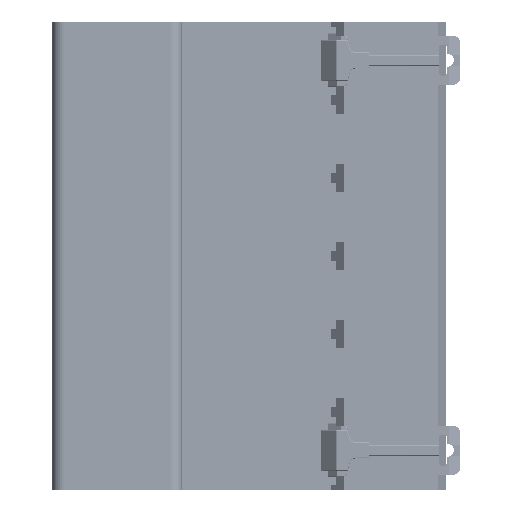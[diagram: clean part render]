
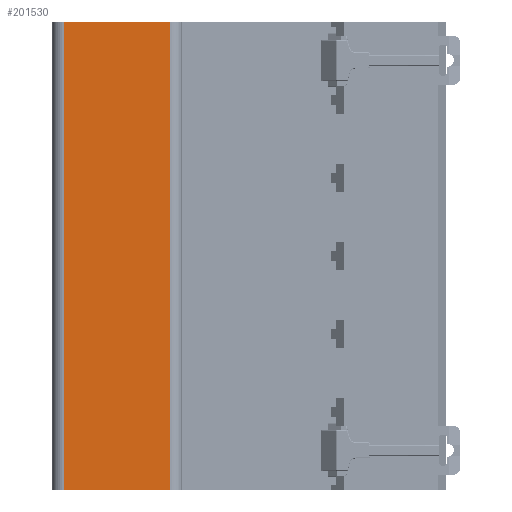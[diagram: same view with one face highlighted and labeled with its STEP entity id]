
A CAD part, front view. The second image highlights one B-rep face of the part: STEP entity #201530.
In plain terms, the highlighted planar face has unit normal (0, -1, 0).
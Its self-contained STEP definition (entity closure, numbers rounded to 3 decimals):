
#5498=DIRECTION('',(-1.,0.,0.));
#5499=VECTOR('',#5498,24.4);
#5500=CARTESIAN_POINT('',(-27.295,-45.857,
0.));
#5501=LINE('',#5500,#5499);
#14522=DIRECTION('',(0.,0.,-1.));
#14523=VECTOR('',#14522,108.);
#14524=CARTESIAN_POINT('',(-27.295,-45.857,
0.));
#14525=LINE('',#14524,#14523);
#14526=DIRECTION('',(-1.,0.,0.));
#14527=VECTOR('',#14526,24.4);
#14528=CARTESIAN_POINT('',(-27.295,-45.857,
-108.));
#14529=LINE('',#14528,#14527);
#14530=DIRECTION('',(0.,0.,-1.));
#14531=VECTOR('',#14530,108.);
#14532=CARTESIAN_POINT('',(-51.695,-45.859,
0.));
#14533=LINE('',#14532,#14531);
#142173=CARTESIAN_POINT('',(-27.295,-45.857,
0.));
#142174=VERTEX_POINT('',#142173);
#142175=CARTESIAN_POINT('',(-51.695,-45.859,
0.));
#142176=VERTEX_POINT('',#142175);
#161139=CARTESIAN_POINT('',(-51.695,-45.859,
-108.));
#161141=VERTEX_POINT('',#161139);
#161142=CARTESIAN_POINT('',(-27.295,-45.857,
-108.));
#161143=VERTEX_POINT('',#161142);
#201518=CARTESIAN_POINT('',(-54.495,-45.86,
-18.));
#201519=DIRECTION('',(0.,-1.,0.));
#201520=DIRECTION('',(1.,0.,0.));
#201521=AXIS2_PLACEMENT_3D('',#201518,#201519,#201520);
#201522=PLANE('',#201521);
#201523=ORIENTED_EDGE('',*,*,#201512,.T.);
#201524=ORIENTED_EDGE('',*,*,#186953,.T.);
#201526=ORIENTED_EDGE('',*,*,#201525,.F.);
#201527=ORIENTED_EDGE('',*,*,#188796,.F.);
#201528=EDGE_LOOP('',(#201523,#201524,#201526,#201527));
#201529=FACE_OUTER_BOUND('',#201528,.F.);
#201530=ADVANCED_FACE('',(#201529),#201522,.T.);
#186953=EDGE_CURVE('',#161143,#161141,#14529,.T.);
#188796=EDGE_CURVE('',#142174,#142176,#5501,.T.);
#201512=EDGE_CURVE('',#142174,#161143,#14525,.T.);
#201525=EDGE_CURVE('',#142176,#161141,#14533,.T.);
